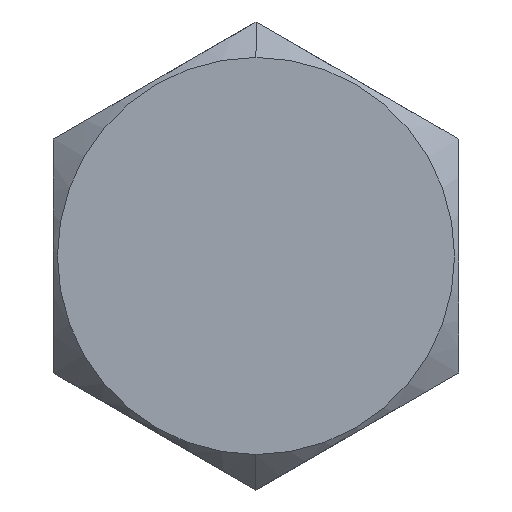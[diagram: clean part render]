
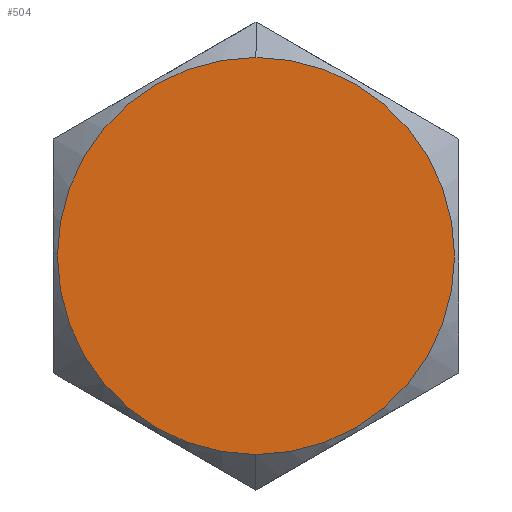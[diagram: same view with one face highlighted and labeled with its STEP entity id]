
A CAD part, left-side view. The second image highlights one B-rep face of the part: STEP entity #504.
In plain terms, the highlighted planar face has unit normal (-1, 0, 0).
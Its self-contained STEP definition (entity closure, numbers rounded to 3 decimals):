
#4 = DIRECTION ( 'NONE',  ( 0., 0., -1. ) ) ;
#12 = ORIENTED_EDGE ( 'NONE', *, *, #230, .F. ) ;
#27 = EDGE_LOOP ( 'NONE', ( #775, #12 ) ) ;
#48 = CIRCLE ( 'NONE', #325, 7.838 ) ;
#53 = VERTEX_POINT ( 'NONE', #757 ) ;
#230 = EDGE_CURVE ( 'NONE', #459, #53, #48, .T. ) ;
#280 = CARTESIAN_POINT ( 'NONE',  ( 0., 0., 0. ) ) ;
#300 = DIRECTION ( 'NONE',  ( 0., 0., -1. ) ) ;
#312 = AXIS2_PLACEMENT_3D ( 'NONE', #423, #418, #300 ) ;
#325 = AXIS2_PLACEMENT_3D ( 'NONE', #280, #790, #640 ) ;
#333 = EDGE_CURVE ( 'NONE', #53, #459, #395, .T. ) ;
#374 = CARTESIAN_POINT ( 'NONE',  ( 0., 0., 7.838 ) ) ;
#395 = CIRCLE ( 'NONE', #312, 7.838 ) ;
#418 = DIRECTION ( 'NONE',  ( 1., 0., 0. ) ) ;
#423 = CARTESIAN_POINT ( 'NONE',  ( 0., 0., 0. ) ) ;
#452 = CARTESIAN_POINT ( 'NONE',  ( 0., 0., 0. ) ) ;
#459 = VERTEX_POINT ( 'NONE', #374 ) ;
#504 = ADVANCED_FACE ( 'NONE', ( #625 ), #518, .F. ) ;
#506 = DIRECTION ( 'NONE',  ( 1., 0., 0. ) ) ;
#518 = PLANE ( 'NONE',  #602 ) ;
#602 = AXIS2_PLACEMENT_3D ( 'NONE', #452, #506, #4 ) ;
#625 = FACE_OUTER_BOUND ( 'NONE', #27, .T. ) ;
#640 = DIRECTION ( 'NONE',  ( 0., 0., -1. ) ) ;
#757 = CARTESIAN_POINT ( 'NONE',  ( 0., 0., -7.838 ) ) ;
#775 = ORIENTED_EDGE ( 'NONE', *, *, #333, .F. ) ;
#790 = DIRECTION ( 'NONE',  ( 1., 0., 0. ) ) ;
